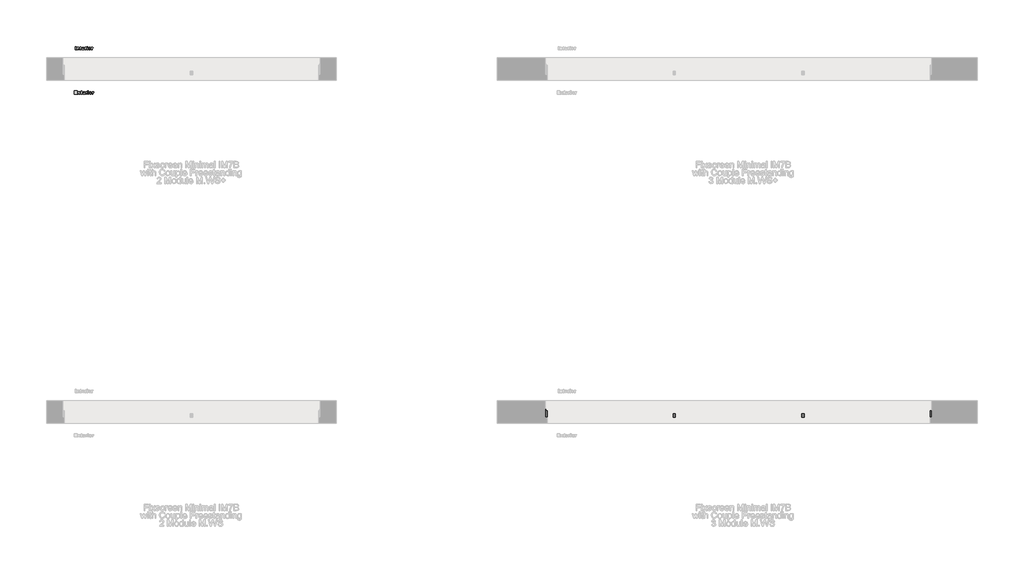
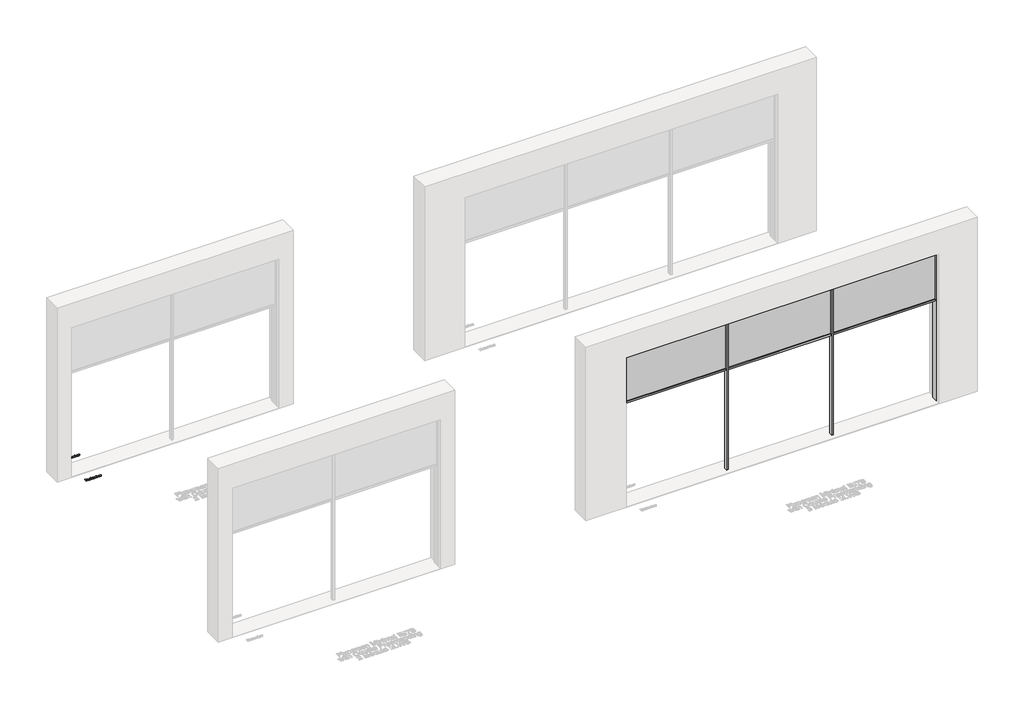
# One storey, part 5 of 14: 3 proxies.
"""IFC4 building model written with IfcOpenShell, lengths in millimetres."""

from ifc_helpers import new_model, si_unit, origin, origin_with_axes, place, context, project, spatial, polyline, outline, extrude, transform, mapped, element, save
from components import generic_models_c44278f1

model = new_model("IFC4")

# Units and contexts
model_context = context("Model", 3, world=origin())
ifc_project = project(units=[si_unit("LENGTHUNIT", "METRE", prefix="MILLI")], contexts=[model_context])

# Site, building, storey
site = spatial("IfcSite", under=ifc_project)
building = spatial("IfcBuilding", under=site)
storey = spatial("IfcBuildingStorey", under=building, Name="Fixscreen Mini CF Overview Top", Elevation=0.0)

# Proxies
placement = place(None, origin())
generic_models_shape = generic_models_c44278f1(model_context)
element("IfcBuildingElementProxy", 1, Name="Renson_Fixscreen_Minimal_IM7B_With_CF : Recessed - Front of the window - Medium-CF - Access downwards - Fabric away from the window", ObjectType="Renson_Fixscreen_Minimal_IM7B_With_CF : Recessed - Front of the window - Medium-CF - Access downwards - Fabric away from the window", at=placement, inside=storey, context=model_context, shape_type="MappedRepresentation", body=[
    mapped(generic_models_shape, transform((2057.1404643, -992.2938309, -790.0), x_axis=(-1.0, 0.0, 0.0), y_axis=(0.0, -1.0, 0.0), z_axis=(0.0, 0.0, 1.0))),
])
element("IfcBuildingElementProxy", 2, Name="50mm Arial", ObjectType="50mm Arial", at=placement, inside=storey, context=model_context, shape_type="SweptSolid", body=[
    extrude(outline(polyline([(-9359.7717135, 3993.7432311), (-9318.4500461, 3993.7432311), (-9318.4500461, 3981.9370404), (-9344.0301259, 3981.9370404), (-9344.0301259, 3977.0177943), (-9320.4177446, 3977.0177943), (-9320.4177446, 3965.2116036), (-9344.0301259, 3965.2116036), (-9344.0301259, 3955.3731114), (-9317.4661969, 3955.3731114), (-9317.4661969, 3943.5669207), (-9359.7717135, 3943.5669207), (-9359.7717135, 3993.7432311)])), origin_with_axes(), (0.0, 0.0, 1.0), 3.0),
    extrude(outline(polyline([(-9313.5308, 3979.9693419), (-9296.8053632, 3979.9693419), (-9291.3941925, 3969.8233968), (-9283.0314741, 3979.9693419), (-9269.257585, 3979.9693419), (-9281.6786814, 3962.6289994), (-9268.2737357, 3943.5669207), (-9284.0153233, 3943.5669207), (-9291.3941925, 3955.2962481), (-9300.7407601, 3943.5669207), (-9314.5146492, 3943.5669207), (-9301.1097036, 3962.6289994), (-9313.5308, 3979.9693419)])), origin_with_axes(), (0.0, 0.0, 1.0), 3.0),
    extrude(outline(polyline([(-9247.6129021, 3993.7432311), (-9247.6129021, 3979.9693419), (-9239.7421083, 3979.9693419), (-9239.7421083, 3970.1308497), (-9247.6129021, 3970.1308497), (-9247.6129021, 3956.8027673), (-9247.182468, 3953.6206299), (-9244.8765714, 3952.4215637), (-9240.7259575, 3953.3439223), (-9239.7421083, 3943.7052745), (-9249.1809118, 3942.5830715), (-9256.6673894, 3943.9435505), (-9260.2338429, 3948.0787917), (-9261.3867912, 3957.0794749), (-9261.3867912, 3970.1308497), (-9266.3060373, 3970.1308497), (-9266.3060373, 3979.9693419), (-9261.3867912, 3979.9693419), (-9261.3867912, 3986.6103242), (-9247.6129021, 3993.7432311)])), origin_with_axes(), (0.0, 0.0, 1.0), 3.0),
    extrude(outline(polyline([(-9193.5011948, 3959.1163502), (-9221.048973, 3958.324659), (-9219.3272369, 3954.3123989), (-9214.3003823, 3952.4215637), (-9210.5802024, 3953.3285497), (-9208.2589331, 3955.3731114), (-9194.485044, 3954.3892621), (-9201.9023448, 3945.3270884), (-9214.3772455, 3942.5830715), (-9225.4609219, 3944.6430058), (-9232.1633947, 3951.1763795), (-9234.8228622, 3961.7066407), (-9229.4654957, 3975.62657), (-9223.08777, 3979.6215359), (-9214.6693257, 3980.9531912), (-9202.5787411, 3978.5704313), (-9195.822464, 3971.6681141), (-9193.5011948, 3959.1163502)]), holes=[polyline([(-9207.2750839, 3965.2116036), (-9209.450313, 3969.7465336), (-9214.1005379, 3971.1146989), (-9219.4041001, 3969.0547646), (-9221.0182277, 3965.2116036), (-9207.2750839, 3965.2116036)])]), origin_with_axes(), (0.0, 0.0, 1.0), 3.0),
    extrude(outline(polyline([(-9187.5980994, 3979.9693419), (-9174.7619416, 3979.9693419), (-9174.7619416, 3974.1123645), (-9170.8496037, 3979.4851036), (-9165.8611807, 3980.9531912), (-9159.066472, 3978.8932568), (-9163.4169302, 3969.1008825), (-9167.3523271, 3970.1308497), (-9171.6412948, 3967.8556984), (-9173.8242103, 3955.8496633), (-9173.8242103, 3943.5669207), (-9187.5980994, 3943.5669207), (-9187.5980994, 3979.9693419)])), origin_with_axes(), (0.0, 0.0, 1.0), 3.0),
    extrude(outline(polyline([(-9156.1149243, 3993.7432311), (-9142.3410352, 3993.7432311), (-9142.3410352, 3983.9047388), (-9156.1149243, 3983.9047388), (-9156.1149243, 3993.7432311)])), origin_with_axes(), (0.0, 0.0, 1.0), 3.0),
    extrude(outline(polyline([(-9156.1149243, 3979.9693419), (-9142.3410352, 3979.9693419), (-9142.3410352, 3943.5669207), (-9156.1149243, 3943.5669207), (-9156.1149243, 3979.9693419)])), origin_with_axes(), (0.0, 0.0, 1.0), 3.0),
    extrude(outline(polyline([(-9134.4702414, 3961.6605228), (-9129.0513843, 3975.5112751), (-9122.6775018, 3979.5927122), (-9114.3935682, 3980.9531912), (-9105.1392364, 3979.3544362), (-9098.4675089, 3974.5581712), (-9094.1324232, 3961.8757398), (-9099.5051623, 3947.9942422), (-9105.905947, 3943.9358641), (-9114.3628229, 3942.5830715), (-9128.0598488, 3947.0718835), (-9132.8676432, 3953.5014919), (-9134.4702414, 3961.6605228)]), holes=[polyline([(-9120.6963523, 3961.7835039), (-9118.8746939, 3954.7120877), (-9114.2859597, 3952.4215637), (-9109.6972254, 3954.6813424), (-9107.9063124, 3961.9218577), (-9109.712598, 3968.8395476), (-9114.1937238, 3971.1146989), (-9118.8593213, 3968.8088023), (-9120.6963523, 3961.7835039)])]), origin_with_axes(), (0.0, 0.0, 1.0), 3.0),
    extrude(outline(polyline([(-9087.2454787, 3979.9693419), (-9074.4093208, 3979.9693419), (-9074.4093208, 3974.1123645), (-9070.4969829, 3979.4851036), (-9065.5085599, 3980.9531912), (-9058.7138512, 3978.8932568), (-9063.0643095, 3969.1008825), (-9066.9997064, 3970.1308497), (-9071.2886741, 3967.8556984), (-9073.4715895, 3955.8496633), (-9073.4715895, 3943.5669207), (-9087.2454787, 3943.5669207), (-9087.2454787, 3979.9693419)])), origin_with_axes(), (0.0, 0.0, 1.0), 3.0),
])
element("IfcBuildingElementProxy", 3, Name="50mm Arial", ObjectType="50mm Arial", at=placement, inside=storey, context=model_context, shape_type="SweptSolid", body=[
    extrude(outline(polyline([(-9347.4735982, 4684.0355824), (-9331.7320107, 4684.0355824), (-9331.7320107, 4633.859272), (-9347.4735982, 4633.859272), (-9347.4735982, 4684.0355824)])), origin_with_axes(), (0.0, 0.0, 1.0), 3.0),
    extrude(outline(polyline([(-9321.8935184, 4670.2616933), (-9309.0727332, 4670.2616933), (-9309.0727332, 4664.4969517), (-9303.1619516, 4669.6852191), (-9295.8830046, 4671.2455425), (-9286.8054582, 4667.7866976), (-9283.5233987, 4657.1027099), (-9283.5233987, 4633.859272), (-9297.2972878, 4633.859272), (-9297.2972878, 4654.0896716), (-9298.6039626, 4658.9858588), (-9302.2626519, 4660.423201), (-9306.4978153, 4658.4862479), (-9308.1196293, 4651.5224401), (-9308.1196293, 4633.859272), (-9321.8935184, 4633.859272), (-9321.8935184, 4670.2616933)])), origin_with_axes(), (0.0, 0.0, 1.0), 3.0),
    extrude(outline(polyline([(-9258.9271681, 4684.0355824), (-9258.9271681, 4670.2616933), (-9251.0563743, 4670.2616933), (-9251.0563743, 4660.423201), (-9258.9271681, 4660.423201), (-9258.9271681, 4647.0951186), (-9258.4967341, 4643.9129812), (-9256.1908375, 4642.713915), (-9252.0402236, 4643.6362737), (-9251.0563743, 4633.9976258), (-9260.4951778, 4632.8754228), (-9267.9816555, 4634.2359018), (-9271.5481089, 4638.371143), (-9272.7010573, 4647.3718262), (-9272.7010573, 4660.423201), (-9277.6203034, 4660.423201), (-9277.6203034, 4670.2616933), (-9272.7010573, 4670.2616933), (-9272.7010573, 4676.9026755), (-9258.9271681, 4684.0355824)])), origin_with_axes(), (0.0, 0.0, 1.0), 3.0),
    extrude(outline(polyline([(-9204.8154608, 4649.4087015), (-9232.3632391, 4648.6170103), (-9230.641503, 4644.6047502), (-9225.6146483, 4642.713915), (-9221.8944685, 4643.620901), (-9219.5731992, 4645.6654627), (-9205.7993101, 4644.6816135), (-9213.2166109, 4635.6194397), (-9225.6915116, 4632.8754228), (-9236.775188, 4634.9353571), (-9243.4776608, 4641.4687308), (-9246.1371282, 4651.9989921), (-9240.7797618, 4665.9189213), (-9234.402036, 4669.9138872), (-9225.9835918, 4671.2455425), (-9213.8930072, 4668.8627826), (-9207.1367301, 4661.9604654), (-9204.8154608, 4649.4087015)]), holes=[polyline([(-9218.58935, 4655.5039549), (-9220.7645791, 4660.0388849), (-9225.414804, 4661.4070502), (-9230.7183662, 4659.3471159), (-9232.3324938, 4655.5039549), (-9218.58935, 4655.5039549)])]), origin_with_axes(), (0.0, 0.0, 1.0), 3.0),
    extrude(outline(polyline([(-9198.9123655, 4670.2616933), (-9186.0762077, 4670.2616933), (-9186.0762077, 4664.4047158), (-9182.1638697, 4669.777455), (-9177.1754467, 4671.2455425), (-9170.380738, 4669.1856082), (-9174.7311963, 4659.3932339), (-9178.6665932, 4660.423201), (-9182.9555609, 4658.1480497), (-9185.1384764, 4646.1420146), (-9185.1384764, 4633.859272), (-9198.9123655, 4633.859272), (-9198.9123655, 4670.2616933)])), origin_with_axes(), (0.0, 0.0, 1.0), 3.0),
    extrude(outline(polyline([(-9167.4291904, 4684.0355824), (-9153.6553012, 4684.0355824), (-9153.6553012, 4674.1970902), (-9167.4291904, 4674.1970902), (-9167.4291904, 4684.0355824)])), origin_with_axes(), (0.0, 0.0, 1.0), 3.0),
    extrude(outline(polyline([(-9167.4291904, 4670.2616933), (-9153.6553012, 4670.2616933), (-9153.6553012, 4633.859272), (-9167.4291904, 4633.859272), (-9167.4291904, 4670.2616933)])), origin_with_axes(), (0.0, 0.0, 1.0), 3.0),
    extrude(outline(polyline([(-9145.7845074, 4651.9528741), (-9140.3656504, 4665.8036265), (-9133.9917678, 4669.8850635), (-9125.7078342, 4671.2455425), (-9116.4535025, 4669.6467875), (-9109.7817749, 4664.8505225), (-9105.4466893, 4652.1680911), (-9110.8194284, 4638.2865935), (-9117.2202131, 4634.2282155), (-9125.6770889, 4632.8754228), (-9139.3741149, 4637.3642349), (-9144.1819093, 4643.7938433), (-9145.7845074, 4651.9528741)]), holes=[polyline([(-9132.0106183, 4652.0758553), (-9130.18896, 4645.004439), (-9125.6002257, 4642.713915), (-9121.0114915, 4644.9736937), (-9119.2205784, 4652.2142091), (-9121.0268641, 4659.1318989), (-9125.5079899, 4661.4070502), (-9130.1735874, 4659.1011536), (-9132.0106183, 4652.0758553)])]), origin_with_axes(), (0.0, 0.0, 1.0), 3.0),
    extrude(outline(polyline([(-9098.5597447, 4670.2616933), (-9085.7235869, 4670.2616933), (-9085.7235869, 4664.4047158), (-9081.811249, 4669.777455), (-9076.822826, 4671.2455425), (-9070.0281173, 4669.1856082), (-9074.3785755, 4659.3932339), (-9078.3139724, 4660.423201), (-9082.6029401, 4658.1480497), (-9084.7858556, 4646.1420146), (-9084.7858556, 4633.859272), (-9098.5597447, 4633.859272), (-9098.5597447, 4670.2616933)])), origin_with_axes(), (0.0, 0.0, 1.0), 3.0),
])

save(model, "model.ifc")
